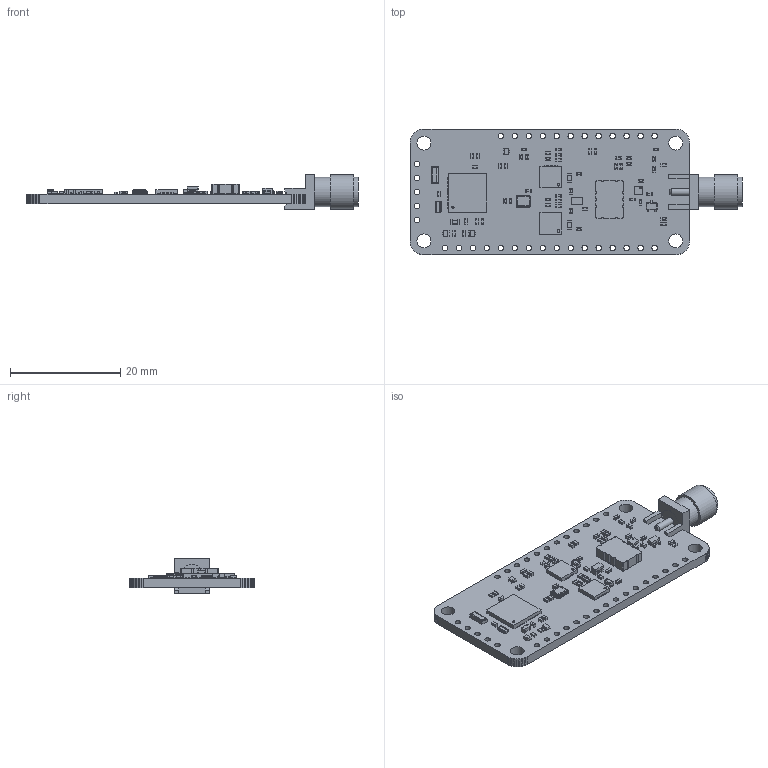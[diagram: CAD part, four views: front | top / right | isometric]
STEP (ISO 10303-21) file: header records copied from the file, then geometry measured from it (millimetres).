
FILE_DESCRIPTION(('KiCad electronic assembly'),'2;1');
FILE_NAME('dAISy Feather Wing.step','2024-02-20T13:18:33',('Pcbnew'),( 'Kicad'),'Open CASCADE STEP processor 7.7','KiCad to STEP converter' ,'Unknown');
FILE_SCHEMA(('AUTOMOTIVE_DESIGN { 1 0 10303 214 1 1 1 1 }'));
Length unit declared in the file: millimetre
Products named in the file (34): dAISy Feather Wing 1; C_0402_1005Metric; SOLID; SAW-BodyPocket; ROHM_SOT-723; COMPOUND; SMA-J-P-H-ST-EM1; R_0402_1005Metric; R_Array_Concave_4x0402; SOT-323_SC-70; Texas_S-PVQFN-N48_EP5.15x5.15mm; Murata_Ceralock_3.2x1.3; ATB2012-50011-T000--3DModel-STEP-269445; LQW15AN_W05; LQW18AN; DFN-6-1EP_1.2x1.2mm_P0.4mm_EP0.3x0.94mm; QFN-20-1EP_4x4mm_P0.5mm_EP2.5x2.5mm; C_0603_1608Metric; TG2520SMN; _autosave-dAISy Feather Wing PCB
Assembly tree (83 placements, depth 3):
  dAISy Feather Wing 1
    C_0402_1005Metric  x38
      SOLID
    SAW-BodyPocket
      SOLID
    ROHM_SOT-723  x3
      COMPOUND
    SMA-J-P-H-ST-EM1
      SOLID
    R_0402_1005Metric  x9
      SOLID
    R_Array_Concave_4x0402
      SOLID
    SOT-323_SC-70
      SOLID
    Texas_S-PVQFN-N48_EP5.15x5.15mm
      SOLID
    Murata_Ceralock_3.2x1.3
      COMPOUND
    ATB2012-50011-T000--3DModel-STEP-269445
      COMPOUND
    LQW15AN_W05  x2
      COMPOUND
    LQW18AN  x2
      COMPOUND
    DFN-6-1EP_1.2x1.2mm_P0.4mm_EP0.3x0.94mm
      SOLID
    QFN-20-1EP_4x4mm_P0.5mm_EP2.5x2.5mm  x2
      SOLID
    C_0603_1608Metric
      SOLID
    TG2520SMN
      COMPOUND
    _autosave-dAISy Feather Wing PCB
Bounding box: 60.32 x 22.86 x 6.35 mm (x, y, z)
Volume: 2373.7 mm3; surface area: 3743.1 mm2
Topology: 128 solids, 128 shells, 3070 faces, 7995 edges, 5246 vertices
Faces by surface type: plane 2006, cylinder 918, bspline 77, torus 56, sphere 12, cone 1
Full cylindrical faces by diameter (mm): 0.08 x50, 0.4 x1, 0.5 x2, 1 x33, 1.27 x2, 2.54 x4, 4.1 x1, 4.25 x1, 4.63 x1, 5.35 x2, 6.33 x1
Entity records: 108398 total; most frequent: CARTESIAN_POINT 21978, DIRECTION 14658, LINE 9888, VECTOR 9888, ORIENTED_EDGE 7928, PCURVE 7928, DEFINITIONAL_REPRESENTATION 7928, EDGE_CURVE 3964
